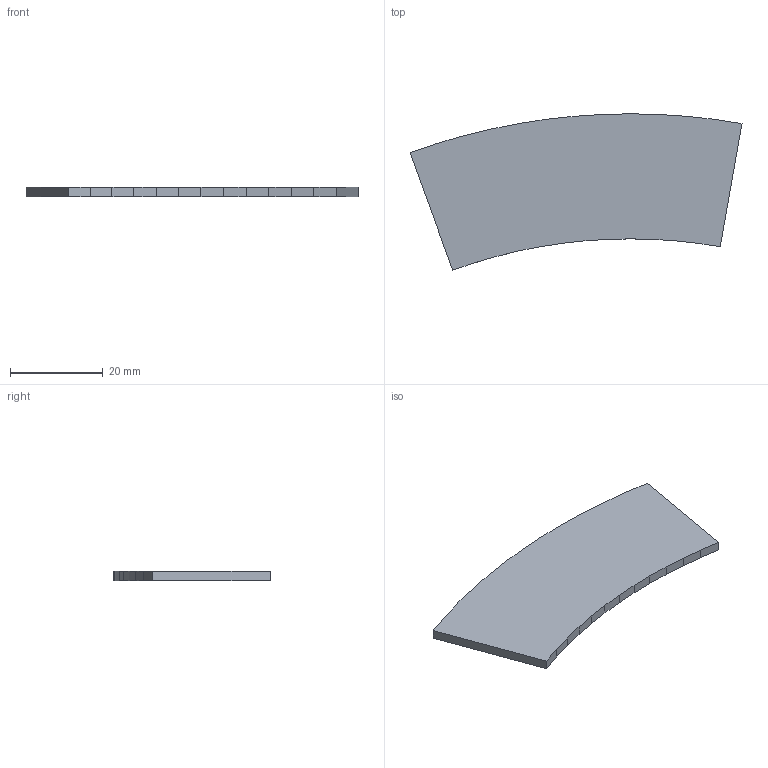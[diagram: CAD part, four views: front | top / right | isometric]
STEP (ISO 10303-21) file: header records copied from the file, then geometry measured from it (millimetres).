
FILE_DESCRIPTION(('Open CASCADE Model'),'2;1');
FILE_NAME('Open CASCADE Shape Model','2026-10-04T01:02:27',('Author'),( 'Open CASCADE'),'Open CASCADE STEP processor 8.0','Open CASCADE 8.0' ,'Unknown');
FILE_SCHEMA(('AUTOMOTIVE_DESIGN { 1 0 10303 214 1 1 1 1 }'));
Length unit declared in the file: millimetre
Products named in the file (1): Open CASCADE STEP translator 8.0 105
Bounding box: 71.68 x 33.75 x 2 mm (x, y, z)
Volume: 3547.3 mm3; surface area: 3918.1 mm2
Topology: 1 solids, 1 shells, 28 faces, 78 edges, 52 vertices
Faces by surface type: plane 28
Entity records: 1906 total; most frequent: CARTESIAN_POINT 315, DIRECTION 292, LINE 234, VECTOR 234, ORIENTED_EDGE 156, PCURVE 156, DEFINITIONAL_REPRESENTATION 156, EDGE_CURVE 78
